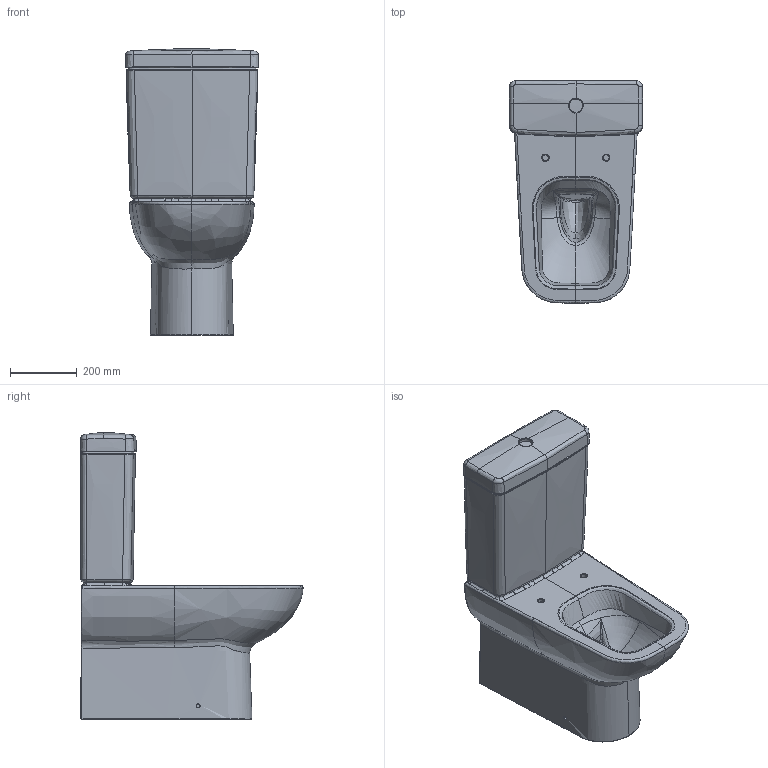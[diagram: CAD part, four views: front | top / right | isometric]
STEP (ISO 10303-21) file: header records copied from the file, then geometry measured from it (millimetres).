
FILE_DESCRIPTION(/* description */ (''),/* implementation_level */ '2;1');
FILE_NAME(/* name */ '561210_Joyce_STWC.stp',/* time_stamp */ '2019-03-07T12:52:55+01:00',/* author */ (''),/* organization */ (''),/* preprocessor_version */ 'ST-DEVELOPER v16',/* originating_system */ 'SIEMENS PLM Software NX 10.0',/* authorisation */ '');
FILE_SCHEMA (('AUTOMOTIVE_DESIGN { 1 0 10303 214 3 1 1 1 }'));
Products named in the file (1): Sier1EA0B88Ezfuj
Bounding box: 399.2 x 665.25 x 857.92 mm (x, y, z)
Volume: 72216826.3 mm3; surface area: 1714225 mm2
Topology: 1 solids, 1 shells, 365 faces, 918 edges, 533 vertices
Faces by surface type: bspline 278, plane 49, cylinder 24, sphere 8, torus 4, extrusion 2
Full cylindrical faces by diameter (mm): 18 x2, 40 x1
Entity records: 48566 total; most frequent: CARTESIAN_POINT 42744, ORIENTED_EDGE 1748, EDGE_CURVE 874, B_SPLINE_CURVE_WITH_KNOTS 586, VERTEX_POINT 524, DIRECTION 402, EDGE_LOOP 378, ADVANCED_FACE 365
